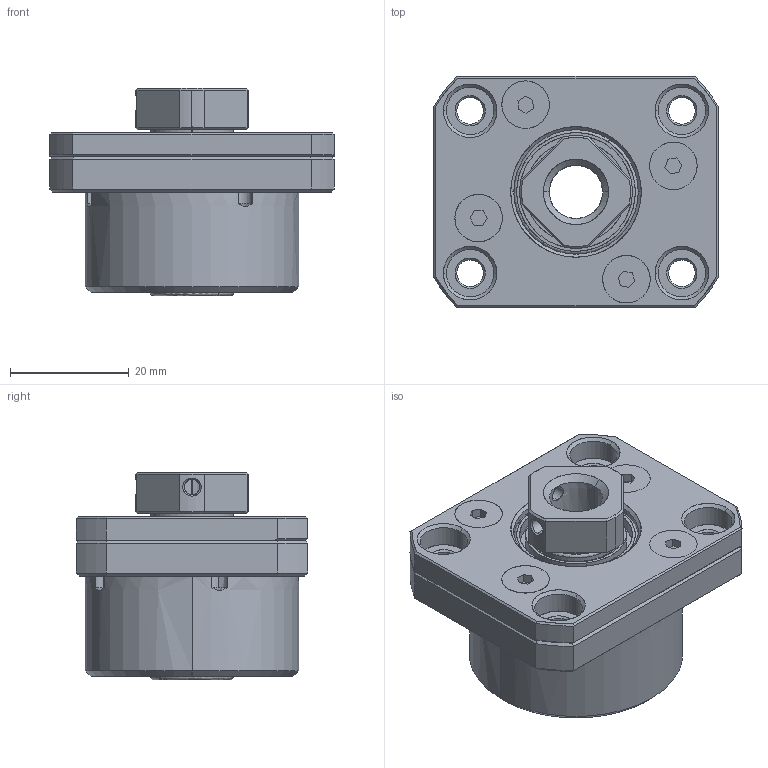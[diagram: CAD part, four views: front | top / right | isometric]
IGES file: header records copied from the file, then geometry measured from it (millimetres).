
Start section: SolidWorks IGES file using analytic representation for surfaces
Bounding box: 48 x 39 x 35 mm (x, y, z)
Surface area: 13302.4 mm2 (no closed solid volume)
Topology: 0 solids, 0 shells, 241 faces, 3315 edges, 3315 vertices
Faces by surface type: revolution 135, bspline 106
